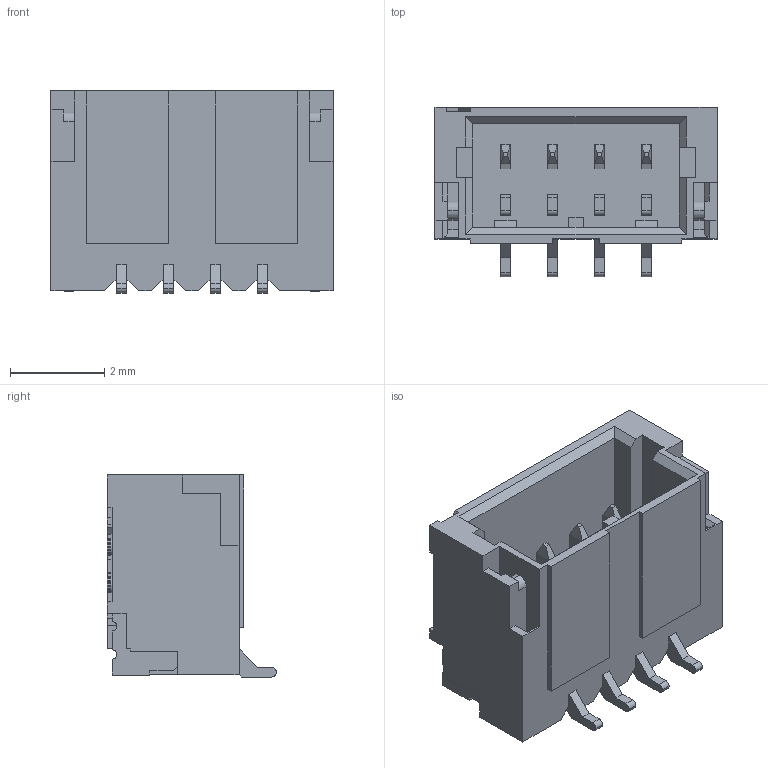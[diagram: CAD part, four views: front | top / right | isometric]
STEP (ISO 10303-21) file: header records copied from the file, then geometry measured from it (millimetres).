
FILE_DESCRIPTION((''),'2;1');
FILE_NAME('PRT0005','2011-05-20T',('12236185'),(''),'PRO/ENGINEER BY PARAMETRIC TECHNOLOGY CORPORATION, 2007450','PRO/ENGINEER BY PARAMETRIC TECHNOLOGY CORPORATION, 2007450','');
FILE_SCHEMA(('CONFIG_CONTROL_DESIGN'));
Length unit declared in the file: millimetre
Products named in the file (1): PRT0005
Bounding box: 6 x 3.6 x 4.3 mm (x, y, z)
Volume: 38.4 mm3; surface area: 205.7 mm2
Topology: 1 solids, 1 shells, 564 faces, 1712 edges, 1108 vertices
Faces by surface type: plane 532, cylinder 32
Entity records: 18886 total; most frequent: CARTESIAN_POINT 3424, ORIENTED_EDGE 3424, DIRECTION 2892, EDGE_CURVE 1712, VECTOR 1628, LINE 1628, VERTEX_POINT 1108, AXIS2_PLACEMENT_3D 632
